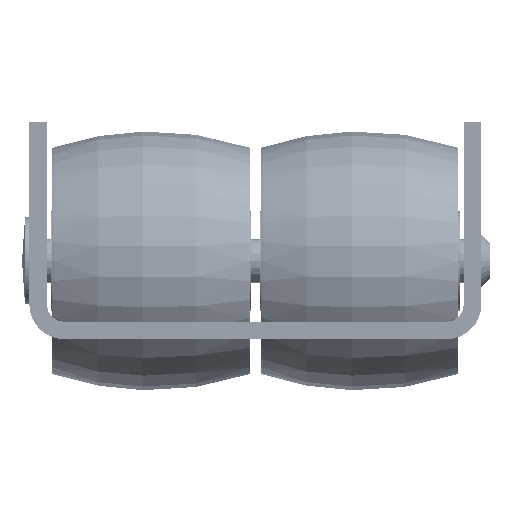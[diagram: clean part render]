
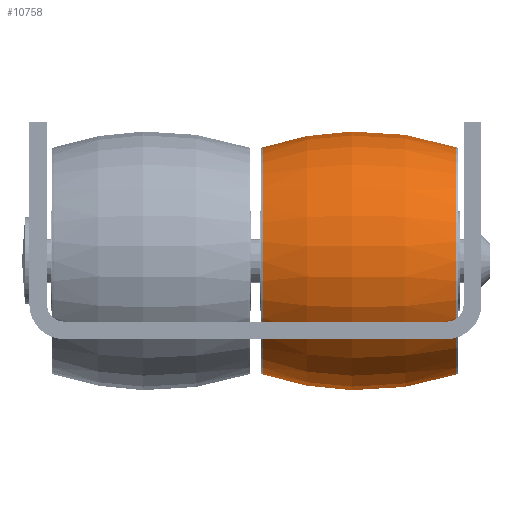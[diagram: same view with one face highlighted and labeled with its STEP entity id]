
A CAD part, front view. The second image highlights one B-rep face of the part: STEP entity #10758.
In plain terms, the highlighted toroidal (fillet/blend) face has major radius 20.11 mm and minor radius 35 mm.
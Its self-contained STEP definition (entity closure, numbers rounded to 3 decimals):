
#20=DEGENERATE_TOROIDAL_SURFACE('',#11853,20.11,35.,.F.);
#5536=ORIENTED_EDGE('',*,*,#6988,.F.);
#5537=ORIENTED_EDGE('',*,*,#6989,.F.);
#6988=EDGE_CURVE('',#7913,#7913,#8414,.T.);
#6989=EDGE_CURVE('',#7914,#7914,#8415,.T.);
#7913=VERTEX_POINT('',#18114);
#7914=VERTEX_POINT('',#18117);
#8414=CIRCLE('',#11850,13.08);
#8415=CIRCLE('',#11852,13.08);
#9197=EDGE_LOOP('',(#5536));
#9198=EDGE_LOOP('',(#5537));
#9987=FACE_BOUND('',#9197,.T.);
#9988=FACE_BOUND('',#9198,.T.);
#10758=ADVANCED_FACE('',(#9987,#9988),#20,.F.);
#11850=AXIS2_PLACEMENT_3D('',#18113,#14978,#14979);
#11852=AXIS2_PLACEMENT_3D('',#18116,#14982,#14983);
#11853=AXIS2_PLACEMENT_3D('',#18118,#14984,#14985);
#14978=DIRECTION('',(1.,0.,0.));
#14979=DIRECTION('',(0.,0.,-1.));
#14982=DIRECTION('',(-1.,0.,0.));
#14983=DIRECTION('',(0.,0.,1.));
#14984=DIRECTION('',(1.,0.,0.));
#14985=DIRECTION('',(0.,0.,-1.));
#18113=CARTESIAN_POINT('',(-0.388,0.,0.));
#18114=CARTESIAN_POINT('',(-0.388,0.,-13.08));
#18116=CARTESIAN_POINT('',(-22.612,0.,0.));
#18117=CARTESIAN_POINT('',(-22.612,0.,13.08));
#18118=CARTESIAN_POINT('',(-11.5,0.,0.));
